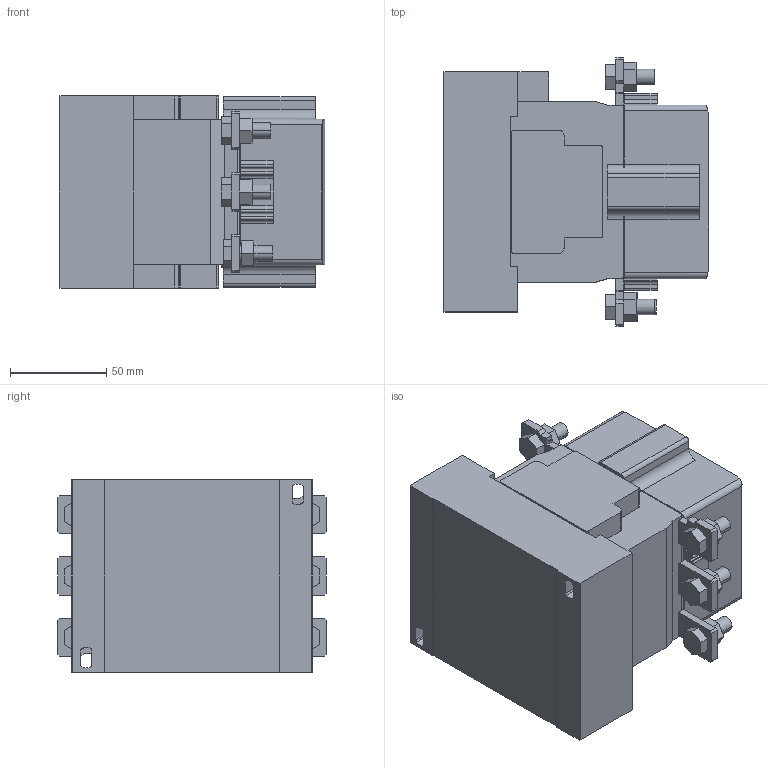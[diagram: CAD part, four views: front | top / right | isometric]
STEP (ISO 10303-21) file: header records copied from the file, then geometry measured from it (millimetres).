
FILE_DESCRIPTION( ( '' ), '1' );
FILE_NAME( 'E:/D&C電子外形図_3D/step/distribution/new_sc_neo_sc/mag/SC-N6.stp', '2013-02-13T02:51:03', ( '' ), ( '' ), ' ', ' ', ' ' );
FILE_SCHEMA( ( 'automotive_design' ) );
Length unit declared in the file: millimetre
Products named in the file (20): 1; 2; 3; 4; 5; 6; 7; 8; 9; 10; 11; 12; 13; 14; 15; 16; 17; 18; 19; 20
Bounding box: 138.5 x 140 x 100 mm (x, y, z)
Volume: 1274226.9 mm3; surface area: 122181.6 mm2
Topology: 20 solids, 20 shells, 396 faces, 1034 edges, 688 vertices
Faces by surface type: plane 292, cylinder 104
Entity records: 24415 total; most frequent: CARTESIAN_POINT 2168, STYLED_ITEM 2138, PRESENTATION_STYLE_ASSIGNMENT 2138, COLOUR_RGB 2138, ORIENTED_EDGE 2068, DIRECTION 2066, EDGE_CURVE 1034, CURVE_STYLE 1034
